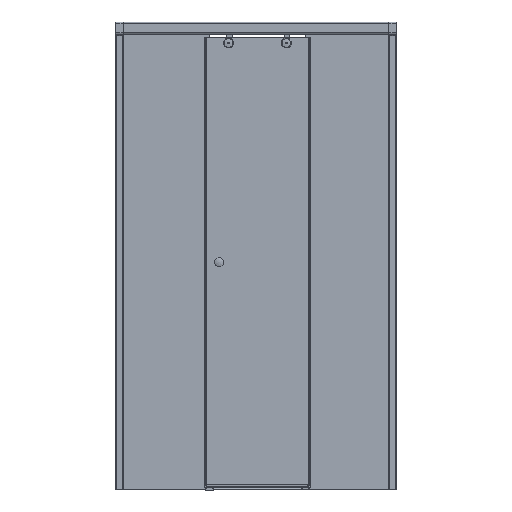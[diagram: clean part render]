
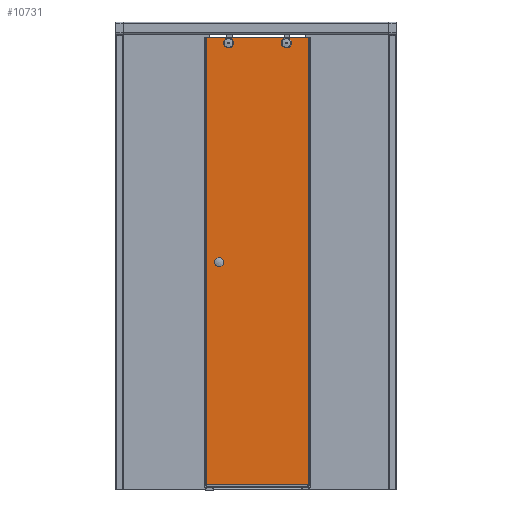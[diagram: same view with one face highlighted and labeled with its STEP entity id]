
A CAD part, left-side view. The second image highlights one B-rep face of the part: STEP entity #10731.
In plain terms, the highlighted planar face has unit normal (-1, 0, 0).
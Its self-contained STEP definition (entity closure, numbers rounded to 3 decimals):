
#249=FACE_BOUND($,#1021,.T.);
#250=FACE_BOUND($,#1022,.T.);
#251=FACE_BOUND($,#1023,.T.);
#1021=EDGE_LOOP($,(#7003));
#1022=EDGE_LOOP($,(#7004));
#1023=EDGE_LOOP($,(#7005,#7006,#7007,#7008,#7009));
#1532=CIRCLE($,#11246,18.5);
#1552=CIRCLE($,#11283,18.5);
#1871=LINE($,#15489,#2988);
#1955=LINE($,#15901,#3072);
#1957=LINE($,#15906,#3074);
#1958=LINE($,#15908,#3075);
#1959=LINE($,#15909,#3076);
#2988=VECTOR($,#12347,442.8);
#3072=VECTOR($,#12591,0.4);
#3074=VECTOR($,#12597,1914.4);
#3075=VECTOR($,#12598,442.8);
#3076=VECTOR($,#12599,1914.);
#4093=VERTEX_POINT($,#15224);
#4122=VERTEX_POINT($,#15390);
#4148=VERTEX_POINT($,#15485);
#4150=VERTEX_POINT($,#15488);
#4233=VERTEX_POINT($,#15865);
#4242=VERTEX_POINT($,#15905);
#4243=VERTEX_POINT($,#15907);
#5109=EDGE_CURVE($,#4093,#4093,#1532,.T.);
#5147=EDGE_CURVE($,#4122,#4122,#1552,.T.);
#5176=EDGE_CURVE($,#4148,#4150,#1871,.T.);
#5313=EDGE_CURVE($,#4150,#4233,#1955,.T.);
#5315=EDGE_CURVE($,#4148,#4242,#1957,.T.);
#5316=EDGE_CURVE($,#4243,#4242,#1958,.T.);
#5317=EDGE_CURVE($,#4233,#4243,#1959,.T.);
#7003=ORIENTED_EDGE($,*,*,#5109,.T.);
#7004=ORIENTED_EDGE($,*,*,#5147,.T.);
#7005=ORIENTED_EDGE($,*,*,#5176,.F.);
#7006=ORIENTED_EDGE($,*,*,#5315,.T.);
#7007=ORIENTED_EDGE($,*,*,#5316,.F.);
#7008=ORIENTED_EDGE($,*,*,#5317,.F.);
#7009=ORIENTED_EDGE($,*,*,#5313,.F.);
#9749=PLANE($,#11388);
#10731=ADVANCED_FACE($,(#249,#250,#251),#9749,.T.);
#11246=AXIS2_PLACEMENT_3D($,#15225,#12199,#12200);
#11283=AXIS2_PLACEMENT_3D($,#15391,#12287,#12288);
#11388=AXIS2_PLACEMENT_3D($,#15904,#12595,#12596);
#12199=DIRECTION('center_axis',(1.,0.,0.));
#12200=DIRECTION('ref_axis',(0.,0.899,-0.437));
#12287=DIRECTION('center_axis',(1.,0.,0.));
#12288=DIRECTION('ref_axis',(0.,0.899,-0.437));
#12347=DIRECTION($,(0.,1.,0.));
#12591=DIRECTION($,(0.,0.,1.));
#12595=DIRECTION('center_axis',(-1.,0.,0.));
#12596=DIRECTION('ref_axis',(0.,-1.,0.));
#12597=DIRECTION($,(0.,0.,1.));
#12598=DIRECTION($,(0.,-1.,0.));
#12599=DIRECTION($,(0.,0.,1.));
#15224=CARTESIAN_POINT('',(834.286,198.35,1929.892));
#15225=CARTESIAN_POINT('Origin',(834.286,214.986,1921.8));
#15390=CARTESIAN_POINT('',(834.286,-49.15,1929.892));
#15391=CARTESIAN_POINT('Origin',(834.286,-32.514,1921.8));
#15485=CARTESIAN_POINT('',(834.286,-127.814,32.4));
#15488=CARTESIAN_POINT('',(834.286,314.986,32.4));
#15489=CARTESIAN_POINT($,(834.286,-132.514,32.4));
#15865=CARTESIAN_POINT('',(834.286,314.986,32.8));
#15901=CARTESIAN_POINT($,(834.286,314.986,21.8));
#15904=CARTESIAN_POINT('Origin',(834.286,314.986,21.8));
#15905=CARTESIAN_POINT('',(834.286,-127.814,1946.8));
#15906=CARTESIAN_POINT($,(834.286,-127.814,984.3));
#15907=CARTESIAN_POINT('',(834.286,314.986,1946.8));
#15908=CARTESIAN_POINT($,(834.286,314.986,1946.8));
#15909=CARTESIAN_POINT($,(834.286,314.986,21.8));
